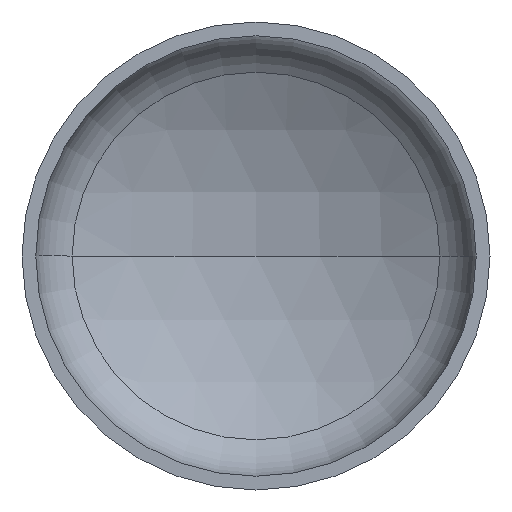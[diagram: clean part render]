
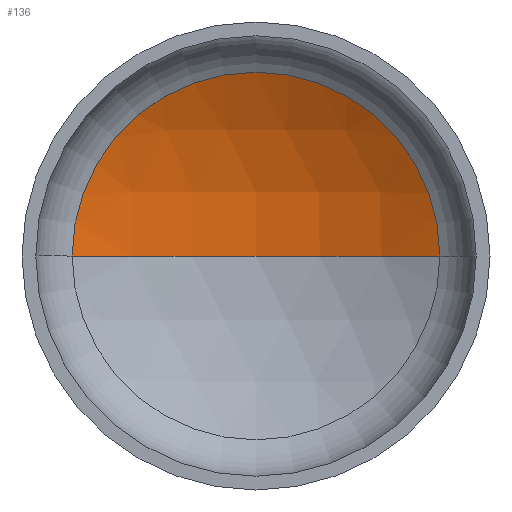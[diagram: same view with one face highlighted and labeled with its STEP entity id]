
A CAD part, front view. The second image highlights one B-rep face of the part: STEP entity #136.
In plain terms, the highlighted spherical face has radius 1520 mm.
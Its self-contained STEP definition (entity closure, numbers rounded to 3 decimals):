
#4 = CARTESIAN_POINT ( 'NONE',  ( 746.407, 372.627, 0. ) ) ;
#8 = CARTESIAN_POINT ( 'NONE',  ( -746.407, 372.627, 0. ) ) ;
#10 = AXIS2_PLACEMENT_3D ( 'NONE', #147, #190, #165 ) ;
#64 = CARTESIAN_POINT ( 'NONE',  ( 0., -951.487, 0. ) ) ;
#70 = DIRECTION ( 'NONE',  ( 0., -1., 0. ) ) ;
#78 = DIRECTION ( 'NONE',  ( 0., 0., 1. ) ) ;
#84 = DIRECTION ( 'NONE',  ( 1., 0., 0. ) ) ;
#89 = ORIENTED_EDGE ( 'NONE', *, *, #390, .T. ) ;
#110 = AXIS2_PLACEMENT_3D ( 'NONE', #64, #78, #84 ) ;
#122 = FACE_OUTER_BOUND ( 'NONE', #222, .T. ) ;
#136 = ADVANCED_FACE ( 'NONE', ( #122 ), #362, .F. ) ;
#143 = CIRCLE ( 'NONE', #284, 746.407 ) ;
#147 = CARTESIAN_POINT ( 'NONE',  ( 0., -951.487, 0. ) ) ;
#150 = VERTEX_POINT ( 'NONE', #166 ) ;
#162 = DIRECTION ( 'NONE',  ( 1., 0., 0. ) ) ;
#165 = DIRECTION ( 'NONE',  ( -1., 0., 0. ) ) ;
#166 = CARTESIAN_POINT ( 'NONE',  ( 0., 568.513, 0. ) ) ;
#186 = VERTEX_POINT ( 'NONE', #8 ) ;
#190 = DIRECTION ( 'NONE',  ( 0., 0., -1. ) ) ;
#203 = VERTEX_POINT ( 'NONE', #4 ) ;
#219 = ORIENTED_EDGE ( 'NONE', *, *, #382, .T. ) ;
#222 = EDGE_LOOP ( 'NONE', ( #228, #219, #89 ) ) ;
#228 = ORIENTED_EDGE ( 'NONE', *, *, #350, .F. ) ;
#243 = DIRECTION ( 'NONE',  ( 0., 0., -1. ) ) ;
#244 = DIRECTION ( 'NONE',  ( -1., 0., 0. ) ) ;
#257 = AXIS2_PLACEMENT_3D ( 'NONE', #383, #243, #244 ) ;
#284 = AXIS2_PLACEMENT_3D ( 'NONE', #341, #70, #162 ) ;
#341 = CARTESIAN_POINT ( 'NONE',  ( 0., 372.627, 0. ) ) ;
#350 = EDGE_CURVE ( 'NONE', #150, #186, #376, .T. ) ;
#362 = SPHERICAL_SURFACE ( 'NONE', #10, 1520. ) ;
#370 = CIRCLE ( 'NONE', #257, 1520. ) ;
#376 = CIRCLE ( 'NONE', #110, 1520. ) ;
#382 = EDGE_CURVE ( 'NONE', #150, #203, #370, .T. ) ;
#383 = CARTESIAN_POINT ( 'NONE',  ( 0., -951.487, 0. ) ) ;
#390 = EDGE_CURVE ( 'NONE', #203, #186, #143, .T. ) ;
